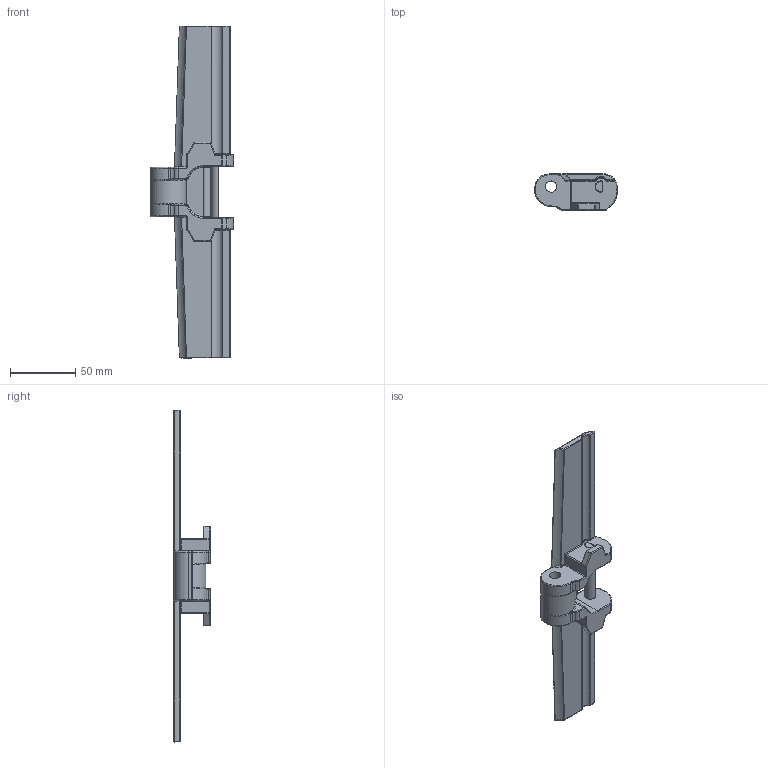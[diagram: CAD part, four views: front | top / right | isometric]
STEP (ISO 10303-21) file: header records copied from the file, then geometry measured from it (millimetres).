
FILE_DESCRIPTION (( 'STEP AP203' ), '1' );
FILE_NAME ('2000.882.1000.STEP', '2021-06-21T09:20:24', ( 'Localadmin' ), ( 'Microsoft' ), 'SwSTEP 2.0', 'SolidWorks 2018', '' );
FILE_SCHEMA (( 'CONFIG_CONTROL_DESIGN' ));
Length unit declared in the file: millimetre
Products named in the file (1): 2000.882.1000
Bounding box: 63.5 x 27.69 x 254 mm (x, y, z)
Volume: 76547.6 mm3; surface area: 32206.1 mm2
Topology: 2 solids, 2 shells, 279 faces, 654 edges, 349 vertices
Faces by surface type: cylinder 112, torus 59, plane 47, sphere 34, bspline 24, cone 3
Entity records: 8517 total; most frequent: CARTESIAN_POINT 2313, DIRECTION 1390, ORIENTED_EDGE 1248, EDGE_CURVE 624, AXIS2_PLACEMENT_3D 584, VERTEX_POINT 349, CIRCLE 328, EDGE_LOOP 285
